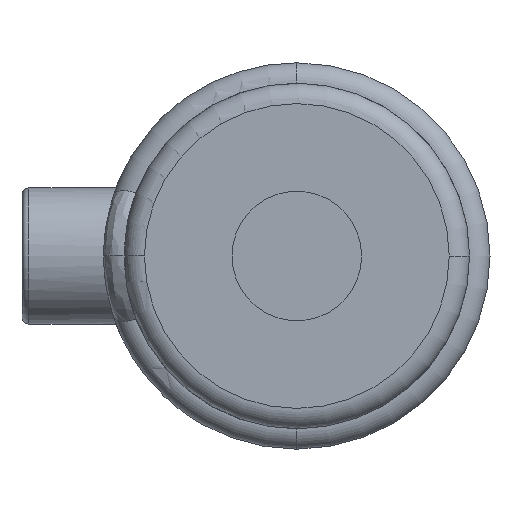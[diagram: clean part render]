
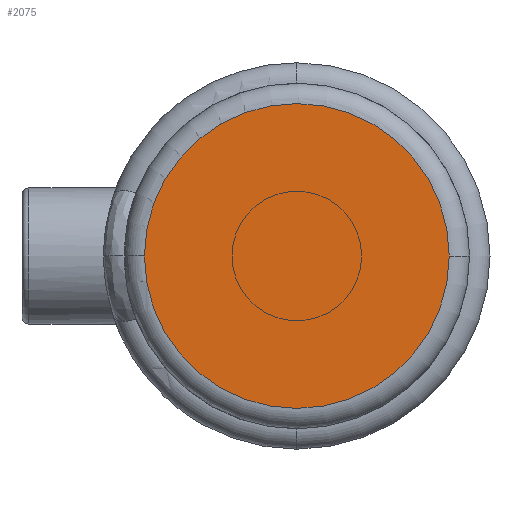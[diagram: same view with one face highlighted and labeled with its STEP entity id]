
A CAD part, left-side view. The second image highlights one B-rep face of the part: STEP entity #2075.
In plain terms, the highlighted planar face has unit normal (-1, 0, 0).
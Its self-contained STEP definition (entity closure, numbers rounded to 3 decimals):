
#13 = CARTESIAN_POINT ( 'NONE',  ( 0., 0., 0. ) ) ;
#362 = DIRECTION ( 'NONE',  ( 0., -1., 0. ) ) ;
#492 = CIRCLE ( 'NONE', #2708, 22.4 ) ;
#515 = PLANE ( 'NONE',  #957 ) ;
#752 = CARTESIAN_POINT ( 'NONE',  ( 0., 22.4, 0. ) ) ;
#845 = DIRECTION ( 'NONE',  ( -1., 0., 0. ) ) ;
#865 = DIRECTION ( 'NONE',  ( -1., 0., 0. ) ) ;
#957 = AXIS2_PLACEMENT_3D ( 'NONE', #2518, #845, #3178 ) ;
#1203 = EDGE_CURVE ( 'NONE', #2205, #1705, #492, .T. ) ;
#1705 = VERTEX_POINT ( 'NONE', #752 ) ;
#1986 = FACE_OUTER_BOUND ( 'NONE', #3002, .T. ) ;
#2075 = ADVANCED_FACE ( 'NONE', ( #1986 ), #515, .T. ) ;
#2205 = VERTEX_POINT ( 'NONE', #3855 ) ;
#2369 = DIRECTION ( 'NONE',  ( -1., 0., 0. ) ) ;
#2518 = CARTESIAN_POINT ( 'NONE',  ( 0., 0., 0. ) ) ;
#2708 = AXIS2_PLACEMENT_3D ( 'NONE', #2880, #865, #3203 ) ;
#2880 = CARTESIAN_POINT ( 'NONE',  ( 0., 0., 0. ) ) ;
#3002 = EDGE_LOOP ( 'NONE', ( #3534, #3814 ) ) ;
#3178 = DIRECTION ( 'NONE',  ( 0., -1., 0. ) ) ;
#3184 = CIRCLE ( 'NONE', #3620, 22.4 ) ;
#3203 = DIRECTION ( 'NONE',  ( 0., -1., 0. ) ) ;
#3534 = ORIENTED_EDGE ( 'NONE', *, *, #1203, .T. ) ;
#3620 = AXIS2_PLACEMENT_3D ( 'NONE', #13, #2369, #362 ) ;
#3743 = EDGE_CURVE ( 'NONE', #1705, #2205, #3184, .T. ) ;
#3814 = ORIENTED_EDGE ( 'NONE', *, *, #3743, .T. ) ;
#3855 = CARTESIAN_POINT ( 'NONE',  ( 0., -22.4, 0. ) ) ;
